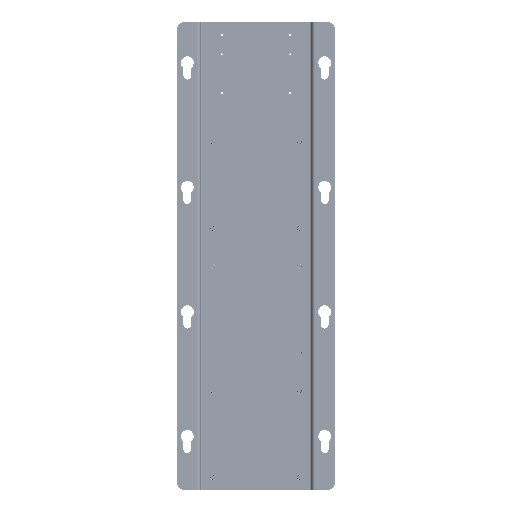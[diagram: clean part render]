
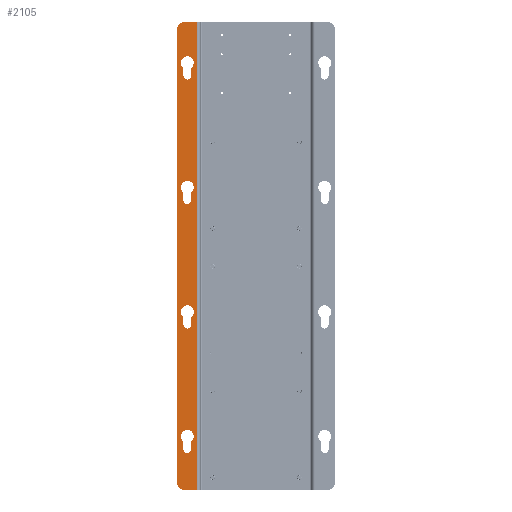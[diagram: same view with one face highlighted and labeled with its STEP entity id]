
A CAD part, top view. The second image highlights one B-rep face of the part: STEP entity #2105.
In plain terms, the highlighted planar face has unit normal (0, 0, 1).
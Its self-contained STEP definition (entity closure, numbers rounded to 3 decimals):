
#37=DIRECTION('',(1.,0.,0.));
#38=VECTOR('',#37,13.8);
#39=CARTESIAN_POINT('',(-82.5,0.,0.));
#40=LINE('',#39,#38);
#41=DIRECTION('',(0.,-1.,0.));
#42=VECTOR('',#41,545.);
#43=CARTESIAN_POINT('',(-68.7,545.,0.));
#44=LINE('',#43,#42);
#59=DIRECTION('',(0.,1.,0.));
#60=VECTOR('',#59,9.);
#61=CARTESIAN_POINT('',(-84.5,47.5,0.));
#62=LINE('',#61,#60);
#63=CARTESIAN_POINT('',(-80.,47.5,0.));
#64=DIRECTION('',(0.,0.,-1.));
#65=DIRECTION('',(1.,0.,0.));
#66=AXIS2_PLACEMENT_3D('',#63,#64,#65);
#68=DIRECTION('',(0.,-1.,0.));
#69=VECTOR('',#68,9.);
#70=CARTESIAN_POINT('',(-75.5,56.5,0.));
#71=LINE('',#70,#69);
#72=CARTESIAN_POINT('',(-80.,62.5,0.));
#73=DIRECTION('',(0.,0.,-1.));
#74=DIRECTION('',(-0.6,-0.8,0.));
#75=AXIS2_PLACEMENT_3D('',#72,#73,#74);
#77=DIRECTION('',(0.,1.,0.));
#78=VECTOR('',#77,9.);
#79=CARTESIAN_POINT('',(-84.5,192.5,0.));
#80=LINE('',#79,#78);
#81=CARTESIAN_POINT('',(-80.,192.5,0.));
#82=DIRECTION('',(0.,0.,-1.));
#83=DIRECTION('',(1.,0.,0.));
#84=AXIS2_PLACEMENT_3D('',#81,#82,#83);
#86=DIRECTION('',(0.,-1.,0.));
#87=VECTOR('',#86,9.);
#88=CARTESIAN_POINT('',(-75.5,201.5,0.));
#89=LINE('',#88,#87);
#90=CARTESIAN_POINT('',(-80.,207.5,0.));
#91=DIRECTION('',(0.,0.,-1.));
#92=DIRECTION('',(-0.6,-0.8,0.));
#93=AXIS2_PLACEMENT_3D('',#90,#91,#92);
#95=DIRECTION('',(0.,1.,0.));
#96=VECTOR('',#95,9.);
#97=CARTESIAN_POINT('',(-84.5,337.5,0.));
#98=LINE('',#97,#96);
#99=CARTESIAN_POINT('',(-80.,337.5,0.));
#100=DIRECTION('',(0.,0.,-1.));
#101=DIRECTION('',(1.,0.,0.));
#102=AXIS2_PLACEMENT_3D('',#99,#100,#101);
#104=DIRECTION('',(0.,-1.,0.));
#105=VECTOR('',#104,9.);
#106=CARTESIAN_POINT('',(-75.5,346.5,0.));
#107=LINE('',#106,#105);
#108=CARTESIAN_POINT('',(-80.,352.5,0.));
#109=DIRECTION('',(0.,0.,-1.));
#110=DIRECTION('',(-0.6,-0.8,0.));
#111=AXIS2_PLACEMENT_3D('',#108,#109,#110);
#113=DIRECTION('',(0.,1.,0.));
#114=VECTOR('',#113,9.);
#115=CARTESIAN_POINT('',(-84.5,482.5,0.));
#116=LINE('',#115,#114);
#117=CARTESIAN_POINT('',(-80.,482.5,0.));
#118=DIRECTION('',(0.,0.,-1.));
#119=DIRECTION('',(1.,0.,0.));
#120=AXIS2_PLACEMENT_3D('',#117,#118,#119);
#122=DIRECTION('',(0.,-1.,0.));
#123=VECTOR('',#122,9.);
#124=CARTESIAN_POINT('',(-75.5,491.5,0.));
#125=LINE('',#124,#123);
#126=CARTESIAN_POINT('',(-80.,497.5,0.));
#127=DIRECTION('',(0.,0.,-1.));
#128=DIRECTION('',(-0.6,-0.8,0.));
#129=AXIS2_PLACEMENT_3D('',#126,#127,#128);
#131=DIRECTION('',(0.,1.,0.));
#132=VECTOR('',#131,525.);
#133=CARTESIAN_POINT('',(-92.5,10.,0.));
#134=LINE('',#133,#132);
#1087=DIRECTION('',(1.,0.,0.));
#1088=VECTOR('',#1087,13.8);
#1089=CARTESIAN_POINT('',(-82.5,545.,0.));
#1090=LINE('',#1089,#1088);
#1140=CARTESIAN_POINT('',(-82.5,535.,0.));
#1141=DIRECTION('',(0.,0.,1.));
#1142=DIRECTION('',(0.,1.,0.));
#1143=AXIS2_PLACEMENT_3D('',#1140,#1141,#1142);
#1153=CARTESIAN_POINT('',(-82.5,10.,0.));
#1154=DIRECTION('',(0.,0.,1.));
#1155=DIRECTION('',(-1.,0.,0.));
#1156=AXIS2_PLACEMENT_3D('',#1153,#1154,#1155);
#1753=CARTESIAN_POINT('',(-92.5,10.,0.));
#1755=VERTEX_POINT('',#1753);
#1757=CARTESIAN_POINT('',(-82.5,0.,0.));
#1758=VERTEX_POINT('',#1757);
#1770=CARTESIAN_POINT('',(-92.5,535.,0.));
#1772=VERTEX_POINT('',#1770);
#1775=CARTESIAN_POINT('',(-82.5,545.,0.));
#1776=VERTEX_POINT('',#1775);
#1785=CARTESIAN_POINT('',(-68.7,545.,0.));
#1786=CARTESIAN_POINT('',(-68.7,0.,0.));
#1787=VERTEX_POINT('',#1785);
#1788=VERTEX_POINT('',#1786);
#1809=CARTESIAN_POINT('',(-84.5,47.5,0.));
#1810=CARTESIAN_POINT('',(-84.5,56.5,0.));
#1811=VERTEX_POINT('',#1809);
#1812=VERTEX_POINT('',#1810);
#1813=CARTESIAN_POINT('',(-75.5,56.5,0.));
#1814=VERTEX_POINT('',#1813);
#1815=CARTESIAN_POINT('',(-75.5,47.5,0.));
#1816=VERTEX_POINT('',#1815);
#1825=CARTESIAN_POINT('',(-84.5,192.5,0.));
#1826=CARTESIAN_POINT('',(-84.5,201.5,0.));
#1827=VERTEX_POINT('',#1825);
#1828=VERTEX_POINT('',#1826);
#1829=CARTESIAN_POINT('',(-75.5,201.5,0.));
#1830=VERTEX_POINT('',#1829);
#1831=CARTESIAN_POINT('',(-75.5,192.5,0.));
#1832=VERTEX_POINT('',#1831);
#1841=CARTESIAN_POINT('',(-84.5,337.5,0.));
#1842=CARTESIAN_POINT('',(-84.5,346.5,0.));
#1843=VERTEX_POINT('',#1841);
#1844=VERTEX_POINT('',#1842);
#1845=CARTESIAN_POINT('',(-75.5,346.5,0.));
#1846=VERTEX_POINT('',#1845);
#1847=CARTESIAN_POINT('',(-75.5,337.5,0.));
#1848=VERTEX_POINT('',#1847);
#1857=CARTESIAN_POINT('',(-84.5,482.5,0.));
#1858=CARTESIAN_POINT('',(-84.5,491.5,0.));
#1859=VERTEX_POINT('',#1857);
#1860=VERTEX_POINT('',#1858);
#1861=CARTESIAN_POINT('',(-75.5,491.5,0.));
#1862=VERTEX_POINT('',#1861);
#1863=CARTESIAN_POINT('',(-75.5,482.5,0.));
#1864=VERTEX_POINT('',#1863);
#2048=CARTESIAN_POINT('',(-92.5,0.,0.));
#2049=DIRECTION('',(0.,0.,1.));
#2050=DIRECTION('',(1.,0.,0.));
#2051=AXIS2_PLACEMENT_3D('',#2048,#2049,#2050);
#2052=PLANE('',#2051);
#2053=ORIENTED_EDGE('',*,*,#2038,.T.);
#2054=ORIENTED_EDGE('',*,*,#2028,.F.);
#2056=ORIENTED_EDGE('',*,*,#2055,.F.);
#2058=ORIENTED_EDGE('',*,*,#2057,.T.);
#2060=ORIENTED_EDGE('',*,*,#2059,.F.);
#2062=ORIENTED_EDGE('',*,*,#2061,.T.);
#2063=EDGE_LOOP('',(#2053,#2054,#2056,#2058,#2060,#2062));
#2064=FACE_OUTER_BOUND('',#2063,.F.);
#2066=ORIENTED_EDGE('',*,*,#2065,.F.);
#2068=ORIENTED_EDGE('',*,*,#2067,.F.);
#2070=ORIENTED_EDGE('',*,*,#2069,.F.);
#2072=ORIENTED_EDGE('',*,*,#2071,.F.);
#2073=EDGE_LOOP('',(#2066,#2068,#2070,#2072));
#2074=FACE_BOUND('',#2073,.F.);
#2076=ORIENTED_EDGE('',*,*,#2075,.F.);
#2078=ORIENTED_EDGE('',*,*,#2077,.F.);
#2080=ORIENTED_EDGE('',*,*,#2079,.F.);
#2082=ORIENTED_EDGE('',*,*,#2081,.F.);
#2083=EDGE_LOOP('',(#2076,#2078,#2080,#2082));
#2084=FACE_BOUND('',#2083,.F.);
#2086=ORIENTED_EDGE('',*,*,#2085,.F.);
#2088=ORIENTED_EDGE('',*,*,#2087,.F.);
#2090=ORIENTED_EDGE('',*,*,#2089,.F.);
#2092=ORIENTED_EDGE('',*,*,#2091,.F.);
#2093=EDGE_LOOP('',(#2086,#2088,#2090,#2092));
#2094=FACE_BOUND('',#2093,.F.);
#2096=ORIENTED_EDGE('',*,*,#2095,.F.);
#2098=ORIENTED_EDGE('',*,*,#2097,.F.);
#2100=ORIENTED_EDGE('',*,*,#2099,.F.);
#2102=ORIENTED_EDGE('',*,*,#2101,.F.);
#2103=EDGE_LOOP('',(#2096,#2098,#2100,#2102));
#2104=FACE_BOUND('',#2103,.F.);
#2105=ADVANCED_FACE('',(#2064,#2074,#2084,#2094,#2104),#2052,.T.);
#67=CIRCLE('',#66,4.5);
#76=CIRCLE('',#75,7.5);
#85=CIRCLE('',#84,4.5);
#94=CIRCLE('',#93,7.5);
#103=CIRCLE('',#102,4.5);
#112=CIRCLE('',#111,7.5);
#121=CIRCLE('',#120,4.5);
#130=CIRCLE('',#129,7.5);
#1144=CIRCLE('',#1143,10.);
#1157=CIRCLE('',#1156,10.);
#2028=EDGE_CURVE('',#1758,#1788,#40,.T.);
#2038=EDGE_CURVE('',#1787,#1788,#44,.T.);
#2055=EDGE_CURVE('',#1755,#1758,#1157,.T.);
#2057=EDGE_CURVE('',#1755,#1772,#134,.T.);
#2059=EDGE_CURVE('',#1776,#1772,#1144,.T.);
#2061=EDGE_CURVE('',#1776,#1787,#1090,.T.);
#2065=EDGE_CURVE('',#1811,#1812,#62,.T.);
#2067=EDGE_CURVE('',#1816,#1811,#67,.T.);
#2069=EDGE_CURVE('',#1814,#1816,#71,.T.);
#2071=EDGE_CURVE('',#1812,#1814,#76,.T.);
#2075=EDGE_CURVE('',#1827,#1828,#80,.T.);
#2077=EDGE_CURVE('',#1832,#1827,#85,.T.);
#2079=EDGE_CURVE('',#1830,#1832,#89,.T.);
#2081=EDGE_CURVE('',#1828,#1830,#94,.T.);
#2085=EDGE_CURVE('',#1843,#1844,#98,.T.);
#2087=EDGE_CURVE('',#1848,#1843,#103,.T.);
#2089=EDGE_CURVE('',#1846,#1848,#107,.T.);
#2091=EDGE_CURVE('',#1844,#1846,#112,.T.);
#2095=EDGE_CURVE('',#1859,#1860,#116,.T.);
#2097=EDGE_CURVE('',#1864,#1859,#121,.T.);
#2099=EDGE_CURVE('',#1862,#1864,#125,.T.);
#2101=EDGE_CURVE('',#1860,#1862,#130,.T.);
